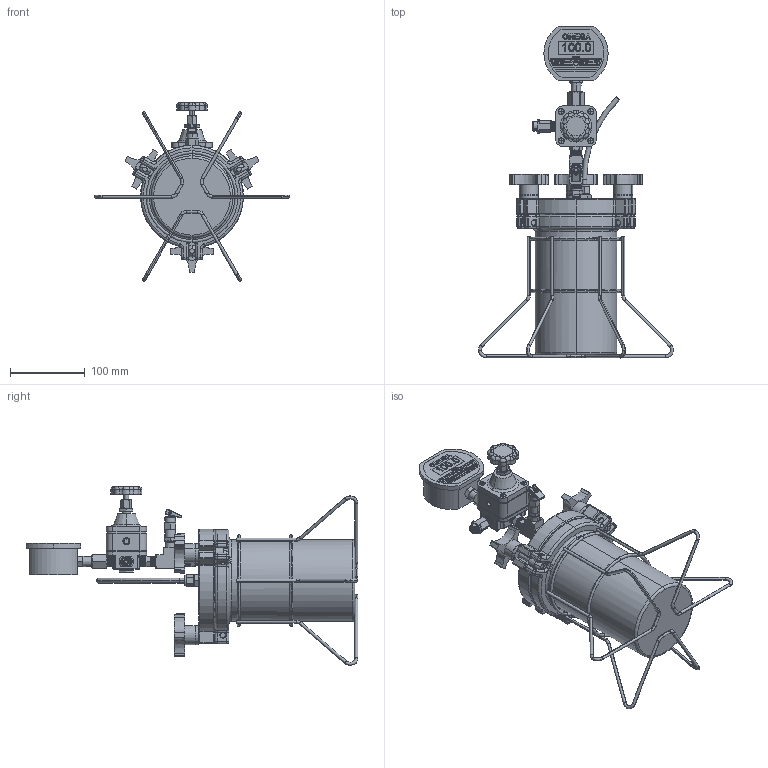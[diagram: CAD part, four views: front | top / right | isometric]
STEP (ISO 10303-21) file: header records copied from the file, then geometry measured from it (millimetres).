
FILE_DESCRIPTION (( 'STEP AP214' ), '1' );
FILE_NAME ('NORDSONEFD-7013489 TANK 1L AL 100PSI 7 BAR PRECISION REG.STEP', '2019-01-07T11:09:11', ( '' ), ( '' ), 'SwSTEP 2.0', 'SolidWorks 2018', '' );
FILE_SCHEMA (( 'AUTOMOTIVE_DESIGN' ));
Length unit declared in the file: inch
Products named in the file (1): NORDSONEFD-7013489 TANK 1L AL 100PSI  7 BAR PRECISION REG
Bounding box: 260.33 x 442.64 x 238.41 mm (x, y, z)
Volume: 1369944.1 mm3; surface area: 445572.6 mm2
Topology: 4 solids, 4 shells, 2352 faces, 5847 edges, 3579 vertices
Faces by surface type: cylinder 689, plane 684, cone 346, torus 323, bspline 251, sphere 59
Entity records: 106645 total; most frequent: CARTESIAN_POINT 39500, ORIENTED_EDGE 11610, DIRECTION 11260, EDGE_CURVE 5805, AXIS2_PLACEMENT_3D 4428, VERTEX_POINT 3577, EDGE_LOOP 2532, VECTOR 2404
